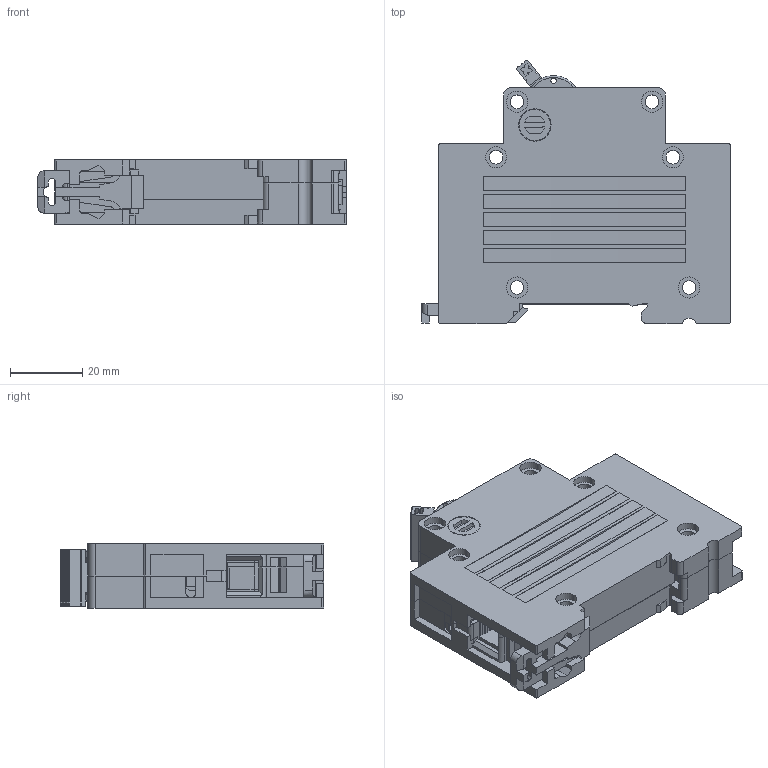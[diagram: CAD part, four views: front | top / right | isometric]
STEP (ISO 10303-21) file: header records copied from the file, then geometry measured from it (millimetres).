
FILE_DESCRIPTION (( 'STEP AP203' ), '1' );
FILE_NAME ('BKN1P(覃誹蹟隊諳党蜊).STEP', '2016-04-06T00:41:03', ( 'User' ), ( 'Company' ), 'SwSTEP 2.0', 'SolidWorks 2013', '' );
FILE_SCHEMA (( 'CONFIG_CONTROL_DESIGN' ));
Length unit declared in the file: inch
Products named in the file (10): 假蚾縐148.1300; BKN基座（调节螺钉口修改）; BKN1P(覃誹蹟隊諳党蜊); 諉盄蹟隊901.1300; 諉盄え516.1300; 諉盄釱574.1300; 噙揖裝550.1301; 忒梟253.1300; 封口塞; BKN裔ㄗ覃誹蹟隊諳党蜊ㄘ
Assembly tree (12 placements, depth 2):
  BKN1P(覃誹蹟隊諳党蜊)
    BKN基座（调节螺钉口修改）
    諉盄蹟隊901.1300  x2
    諉盄え516.1300
    諉盄釱574.1300  x2
    噙揖裝550.1301
    忒梟253.1300
    封口塞  x2
    BKN裔ㄗ覃誹蹟隊諳党蜊ㄘ
    假蚾縐148.1300
Bounding box: 85.74 x 73.2 x 17.8 mm (x, y, z)
Volume: 17987.5 mm3; surface area: 43966.3 mm2
Topology: 12 solids, 18 shells, 2259 faces, 6172 edges, 4015 vertices
Faces by surface type: plane 1520, cylinder 659, torus 47, cone 29, sphere 4
Entity records: 66507 total; most frequent: CARTESIAN_POINT 11808, ORIENTED_EDGE 11314, DIRECTION 11113, EDGE_CURVE 5663, VECTOR 4179, LINE 4179, VERTEX_POINT 3702, AXIS2_PLACEMENT_3D 3467
